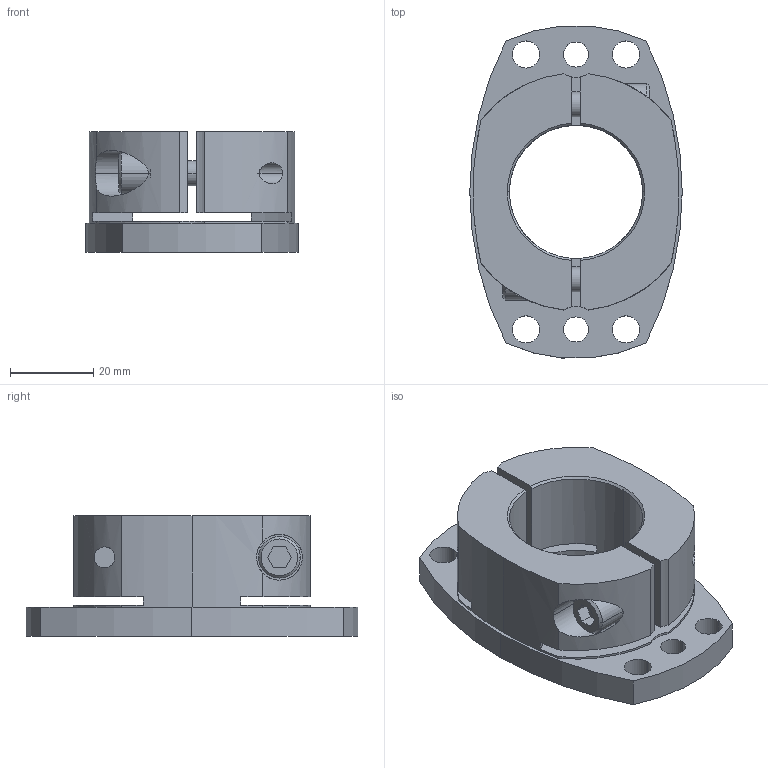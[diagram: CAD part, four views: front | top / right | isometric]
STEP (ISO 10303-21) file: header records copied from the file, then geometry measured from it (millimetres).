
FILE_DESCRIPTION((''),'2;1');
FILE_NAME('SHDB-80B-32.stp','2026-01-28T08:32:34',(''),(''),'AutoCAD STEP 2000i','AutoCAD 2000i',', , ');
FILE_SCHEMA(('CONFIG_CONTROL_DESIGN'));
Length unit declared in the file: millimetre
Products named in the file (2): SHDB-80B-32; 忣兜1
Assembly tree (1 placements, depth 2):
  SHDB-80B-32
    忣兜1
Bounding box: 51 x 79.7 x 29 mm (x, y, z)
Volume: 47522.4 mm3; surface area: 17933.9 mm2
Topology: 1 solids, 1 shells, 102 faces, 274 edges, 180 vertices
Faces by surface type: cylinder 58, plane 34, cone 10
Entity records: 3629 total; most frequent: CARTESIAN_POINT 830, DIRECTION 600, ORIENTED_EDGE 548, EDGE_CURVE 274, AXIS2_PLACEMENT_3D 238, VERTEX_POINT 180, CIRCLE 134, EDGE_LOOP 126
